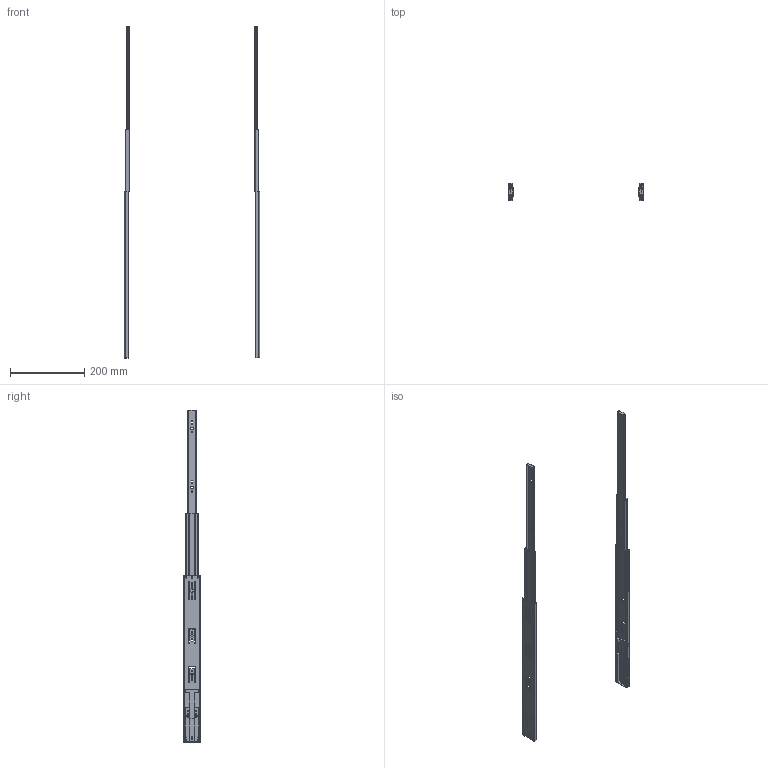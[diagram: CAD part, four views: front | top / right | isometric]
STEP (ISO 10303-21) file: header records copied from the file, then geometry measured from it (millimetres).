
FILE_DESCRIPTION(/* description */ (''),/* implementation_level */ '2;1');
FILE_NAME(/* name */ 'D:\$Workingspace\Designs\Katalog\Cadsoft\GTV Prowadnice\Prowadnice GTV_bryły 3D\PK-L-H45-450-A_wysunieta.stp',/* time_stamp */ '2016-11-22T14:22:03+01:00',/* author */ ('tomaszw'),/* organization */ (''),/* preprocessor_version */ 'ST-DEVELOPER v16.1',/* originating_system */ 'Autodesk Inventor 2016',/* authorisation */ '');
FILE_SCHEMA (('AUTOMOTIVE_DESIGN { 1 0 10303 214 3 1 1 }'));
Length unit declared in the file: millimetre
Products named in the file (6): PK-L-H45_1-450-A; PK-L-H45_2-450-A; PK-L-H45_3-450-A; PK-L-H45_4-_-A; PK-L-H45_5-_-A; PK-L-H45-_-A
Assembly tree (10 placements, depth 2):
  PK-L-H45-_-A
    PK-L-H45_1-450-A  x2
    PK-L-H45_2-450-A  x2
    PK-L-H45_3-450-A  x2
    PK-L-H45_4-_-A  x2
    PK-L-H45_5-_-A  x2
Bounding box: 364 x 45.5 x 895 mm (x, y, z)
Volume: 194383.7 mm3; surface area: 291178.7 mm2
Topology: 12 solids, 12 shells, 618 faces, 1790 edges, 1192 vertices
Faces by surface type: plane 366, cylinder 252
Full cylindrical faces by diameter (mm): 4.2 x4, 4.5 x14, 5 x2, 6.2 x4, 7.2 x4
Entity records: 10769 total; most frequent: CARTESIAN_POINT 1887, DIRECTION 1773, ORIENTED_EDGE 1758, EDGE_CURVE 879, LINE 621, VECTOR 621, VERTEX_POINT 594, AXIS2_PLACEMENT_3D 576
